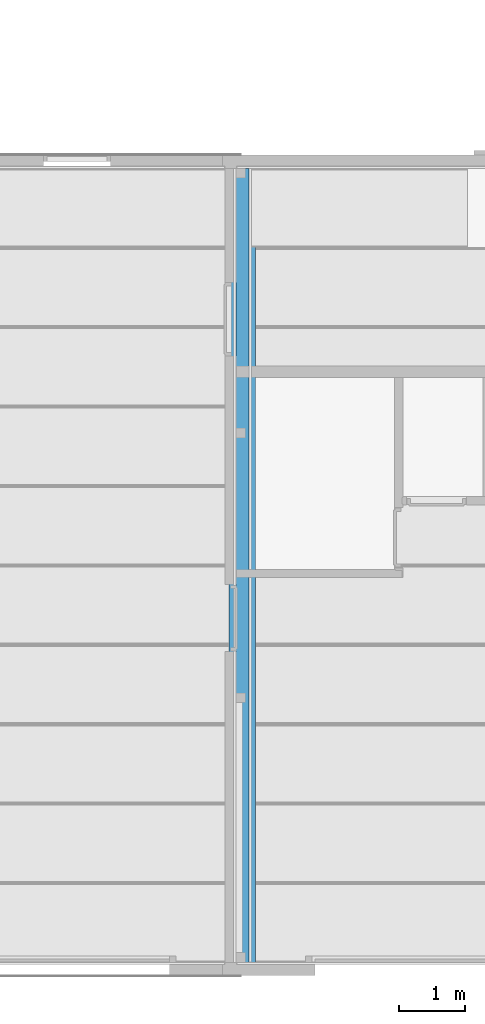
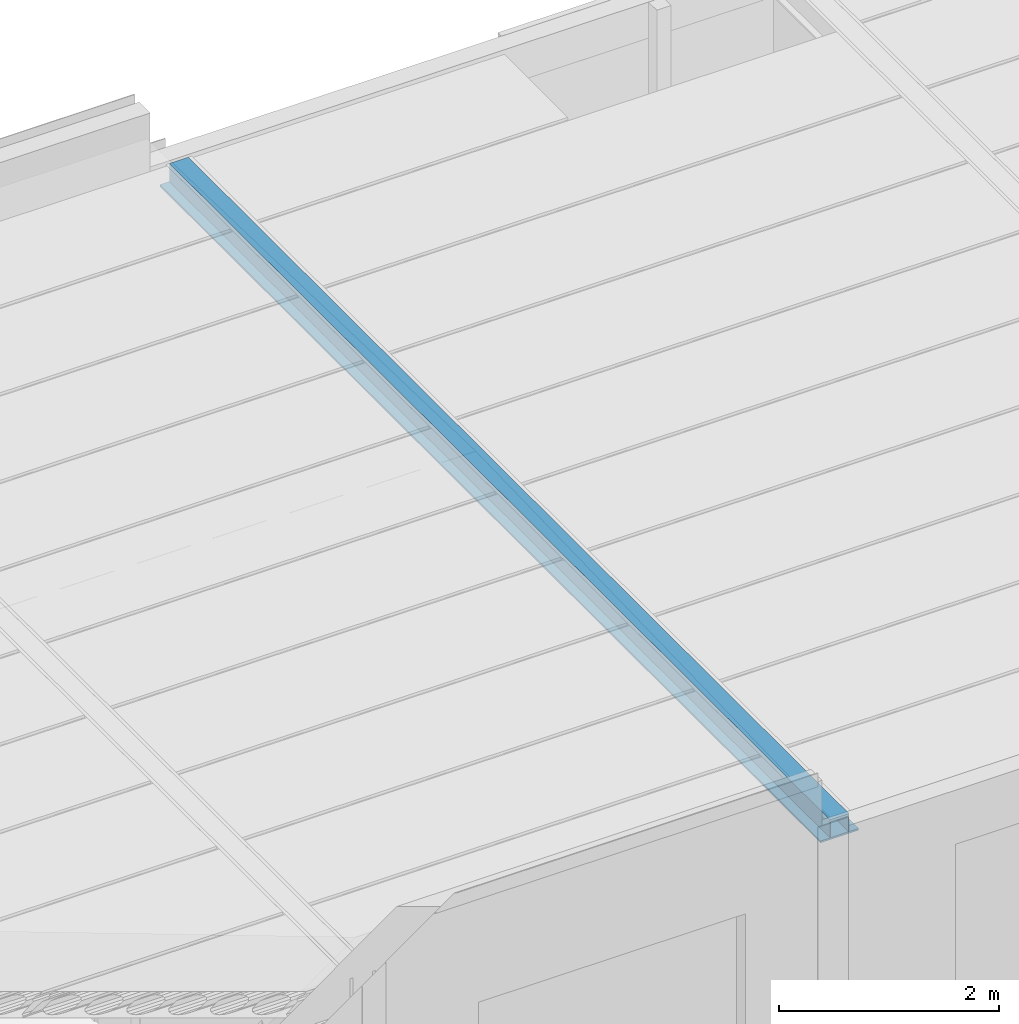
# One storey, part 9 of 45: 1 beam.
"""IFC2X3 building model written with IfcOpenShell, lengths in millimetres."""

import ifcopenshell
import ifcopenshell.guid

model = None  # the IFC model being written
_history = None  # IfcOwnerHistory: only IFC2X3 demands one
_inside = {}  # id of a spatial element -> (the spatial element, [elements in it])
_under = {}  # id of a project, library or spatial element -> (it, [spatial elements below it])
_declared = {}  # id of a project -> (the project, [libraries it declares])
_typed = {}  # id of a type object -> (the type object, [elements of that type])
_made_of = {}  # id of a material, layer set ... -> (it, [elements and type objects made of it])


def new_model(schema):
    """Start an empty IFC model of exactly this schema.

    Asked for "IFC4X3", IfcOpenShell would pick the latest addendum, in which some entities
    have other attributes; the version numbers below select the first issue.
    IFC2X3 requires an IfcOwnerHistory on every rooted entity: one is made here for all.
    """
    global model, _history
    if schema == "IFC4X3":
        model = ifcopenshell.file(schema_version=(4, 3, 0, 0))
    else:
        model = ifcopenshell.file(schema=schema)
    _inside.clear()
    _under.clear()
    _declared.clear()
    _typed.clear()
    _made_of.clear()
    _history = None
    if model.schema == "IFC2X3":
        org = make("IfcOrganization", Name="unknown")
        user = make(
            "IfcPersonAndOrganization",
            ThePerson=make("IfcPerson", FamilyName="unknown"),
            TheOrganization=org,
        )
        app = make(
            "IfcApplication",
            ApplicationDeveloper=org,
            Version="unknown",
            ApplicationFullName="unknown",
            ApplicationIdentifier="unknown",
        )
        _history = make(
            "IfcOwnerHistory",
            OwningUser=user,
            OwningApplication=app,
            ChangeAction="ADDED",
            CreationDate=0,
        )
    return model


def make(cls, **values):
    """One entity of the class cls with the attributes given. An attribute that is None is left unset."""
    return model.create_entity(
        cls, **{name: value for name, value in values.items() if value is not None}
    )


def entity(cls, *values):
    """Any entity or typed value of the class cls, its attributes in the order of the schema. None: left unset."""
    e = model.create_entity(cls)
    for i, value in enumerate(values):
        if value is not None:
            e[i] = value
    return e


def rooted(cls, **values):
    """An entity with a GlobalId (a new one), such as an element, a storey or a relation."""
    return make(cls, GlobalId=ifcopenshell.guid.new(), OwnerHistory=_history, **values)


def si_unit(unit_type, name, prefix=None):
    """IfcSIUnit, for example si_unit("LENGTHUNIT", "METRE", prefix="MILLI")."""
    return make("IfcSIUnit", UnitType=unit_type, Prefix=prefix, Name=name)


def converted_unit(unit_type, name, factor, base, dimensions=None, offset=None):
    """IfcConversionBasedUnit, such as the inch: factor (a typed value) times the base unit."""
    return make(
        "IfcConversionBasedUnit"
        if offset is None
        else "IfcConversionBasedUnitWithOffset",
        ConversionOffset=offset,
        Dimensions=None
        if dimensions is None
        else entity("IfcDimensionalExponents", *dimensions),
        UnitType=unit_type,
        Name=name,
        ConversionFactor=make(
            "IfcMeasureWithUnit", ValueComponent=factor, UnitComponent=base
        ),
    )


def assignment(units):
    """IfcUnitAssignment: the units of a project."""
    return None if units is None else make("IfcUnitAssignment", Units=units)


def point(xyz):
    """IfcCartesianPoint."""
    return None if xyz is None else make("IfcCartesianPoint", Coordinates=xyz)


def direction(xyz):
    """IfcDirection."""
    return None if xyz is None else make("IfcDirection", DirectionRatios=xyz)


def frame(location, z_axis=None, x_axis=None):
    """IfcAxis2Placement3D, a coordinate frame: its origin and axes. An axis left out is left unset."""
    return make(
        "IfcAxis2Placement3D",
        Location=point(location),
        Axis=direction(z_axis),
        RefDirection=direction(x_axis),
    )


def origin():
    """The frame at (0, 0, 0) with its axes left unset."""
    return frame((0.0, 0.0, 0.0))


def place(relative_to, where):
    """IfcLocalPlacement: puts the frame where relative to a parent placement (None: the world)."""
    return make(
        "IfcLocalPlacement", PlacementRelTo=relative_to, RelativePlacement=where
    )


def context(
    kind, dimensions, precision=None, world=None, true_north=None, identifier=None
):
    """IfcGeometricRepresentationContext, for example the 3D "Model" context."""
    return make(
        "IfcGeometricRepresentationContext",
        ContextIdentifier=identifier,
        ContextType=kind,
        CoordinateSpaceDimension=dimensions,
        Precision=precision,
        WorldCoordinateSystem=world,
        TrueNorth=true_north,
    )


def subcontext(parent, identifier, kind, view, scale=None):
    """IfcGeometricRepresentationSubContext, for example "Body" below "Model"."""
    return make(
        "IfcGeometricRepresentationSubContext",
        ContextIdentifier=identifier,
        ContextType=kind,
        ParentContext=parent,
        TargetScale=scale,
        TargetView=view,
    )


def project(units=None, contexts=None):
    """IfcProject with its units and contexts."""
    return rooted(
        "IfcProject",
        Name="project",
        RepresentationContexts=contexts,
        UnitsInContext=assignment(units),
    )


def spatial(cls, under=None, at=None, **own):
    """A site, building, storey or space (cls), placed at a placement, below another one or the project."""
    s = rooted(cls, ObjectPlacement=at, **own)
    if under is not None:
        _under.setdefault(under.id(), (under, []))[1].append(s)
    return s


def faces_of(points, faces, orient=None, outer=None):
    """IfcFace entities. A face is a list of loops; a loop is a list of indices into points, from 0.

    orient and outer hold one flag for each loop. By default every Orientation is true, the
    first loop of a face is its IfcFaceOuterBound and the others are IfcFaceBound.
    """
    made = []
    for i, loops in enumerate(faces):
        bounds = []
        for j, loop in enumerate(loops):
            is_outer = j == 0 if outer is None else outer[i][j]
            bounds.append(
                make(
                    "IfcFaceOuterBound" if is_outer else "IfcFaceBound",
                    Bound=make("IfcPolyLoop", Polygon=[points[k] for k in loop]),
                    Orientation=True if orient is None else orient[i][j],
                )
            )
        made.append(make("IfcFace", Bounds=bounds))
    return made


def faceted_brep(points, faces, orient=None, outer=None, voids=None):
    """IfcFacetedBrep: a solid bounded by flat faces; with voids (closed shells), ...WithVoids."""
    shared = [point(p) for p in points]
    hull = make("IfcClosedShell", CfsFaces=faces_of(shared, faces, orient, outer))
    if voids is None:
        return make("IfcFacetedBrep", Outer=hull)
    return make(
        "IfcFacetedBrepWithVoids",
        Outer=hull,
        Voids=[
            make(cls, CfsFaces=faces_of(shared, fs, o, b)) for cls, fs, o, b in voids
        ],
    )


def shape(context_of_items, identifier, shape_type, items):
    """IfcShapeRepresentation: the items that make up one representation, for example the "Body"."""
    return make(
        "IfcShapeRepresentation",
        ContextOfItems=context_of_items,
        RepresentationIdentifier=identifier,
        RepresentationType=shape_type,
        Items=items,
    )


def material(Name=None, Category=None):
    """IfcMaterial."""
    return make("IfcMaterial", Name=Name, Category=Category)


def made_of(thing, what):
    """Note that an element or type object is made of a material, layer set ...; save() writes the relation."""
    if what is not None:
        _made_of.setdefault(what.id(), (what, []))[1].append(thing)
    return thing


def element(
    cls,
    number,
    at=None,
    inside=None,
    cuts=None,
    type_object=None,
    material=None,
    context=None,
    identifier="Body",
    shape_type=None,
    held_by="IfcProductDefinitionShape",
    body=None,
    shapes=None,
    **own,
):
    """One element of the class cls, such as IfcWall. Its Tag is "e" and its number.

    at: its placement. inside: the storey or other place that contains it. cuts: it is an
    opening in that element (IfcRelVoidsElement). A single representation is given by context,
    identifier, shape_type and body (its items); several are given by shapes. held_by: the class
    of the entity that holds the representations. save() writes the other relations.
    """
    e = rooted(cls, Tag="e%d" % number, ObjectPlacement=at, **own)
    if body is not None:
        shapes = [shape(context, identifier, shape_type, body)]
    if shapes is not None:
        e.Representation = make(held_by, Representations=shapes)
    if inside is not None:
        _inside.setdefault(inside.id(), (inside, []))[1].append(e)
    if cuts is not None:
        rooted(
            "IfcRelVoidsElement", RelatingBuildingElement=cuts, RelatedOpeningElement=e
        )
    if type_object is not None:
        _typed.setdefault(type_object.id(), (type_object, []))[1].append(e)
    return made_of(e, material)


def aggregate(whole, parts):
    """IfcRelAggregates: a whole, such as a stair, and the parts it consists of."""
    return rooted("IfcRelAggregates", RelatingObject=whole, RelatedObjects=parts)


def save(model, path):
    """Write the relations noted so far, then the file.

    IfcRelAggregates (storeys below a building ...), IfcRelContainedInSpatialStructure (elements
    in a storey), IfcRelDefinesByType, IfcRelAssociatesMaterial and IfcRelDeclares: one each for
    every whole, place, type object, material and project.
    """
    for whole, parts in _under.values():
        aggregate(whole, parts)
    for where, things in _inside.values():
        rooted(
            "IfcRelContainedInSpatialStructure",
            RelatedElements=things,
            RelatingStructure=where,
        )
    for kind, things in _typed.values():
        rooted("IfcRelDefinesByType", RelatedObjects=things, RelatingType=kind)
    for what, things in _made_of.values():
        rooted("IfcRelAssociatesMaterial", RelatedObjects=things, RelatingMaterial=what)
    for by, libraries in _declared.values():
        rooted("IfcRelDeclares", RelatingContext=by, RelatedDefinitions=libraries)
    model.write(path)


model = new_model("IFC2X3")

# Units and contexts
model_context = context("Model", 3, precision=1e-05, world=origin())
plan_context = context("Plan", 3, precision=1e-05, world=origin())
body_context = subcontext(model_context, "Body", "Model", "MODEL_VIEW")
ifc_project = project(units=[si_unit("LENGTHUNIT", "METRE", prefix="MILLI"), converted_unit("PLANEANGLEUNIT", "DEGREE", entity("IfcPlaneAngleMeasure", 0.0174532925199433), si_unit("PLANEANGLEUNIT", "RADIAN"), dimensions=[0, 0, 0, 0, 0, 0, 0]), si_unit("AREAUNIT", "SQUARE_METRE"), si_unit("VOLUMEUNIT", "CUBIC_METRE")], contexts=[model_context, plan_context])

# Building, storey
building_placement = place(None, origin())
building = spatial("IfcBuilding", under=ifc_project, at=building_placement, Name="HEKF Administrasjonbygg", CompositionType="ELEMENT")
storey_placement = place(building_placement, frame((0.0, 0.0, 6500.0), z_axis=(0.0, 0.0, 1.0), x_axis=(1.0, 0.0, 0.0)))
storey = spatial("IfcBuildingStorey", under=building, at=storey_placement, Name="Plan 1", CompositionType="ELEMENT", Elevation=6500.0)

# Beam
ifc_material = material(Name="HSQ")
beam_placement = place(storey_placement, frame((0.0, 0.0, -6500.0), z_axis=(0.0, 0.0, 1.0), x_axis=(1.0, 0.0, 0.0)))
element("IfcBeam", 1, at=beam_placement, inside=storey, material=ifc_material, context=body_context, shape_type="Brep", body=[
    faceted_brep([(9800.0, -11999.99999999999, 9670.0), (9800.0, -11999.99999999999, 9650.0), (9800.000000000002, 1.456726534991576e-11, 9650.0), (9800.0, 1.456726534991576e-11, 9670.0), (10200.0, -11999.99999999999, 9670.0), (10200.0, -11999.99999999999, 9650.0), (9800.0, -11999.99999999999, 9650.0), (9800.0, -11999.99999999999, 9670.0), (9900.0, -11999.99999999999, 9670.0), (9900.0, -11999.99999999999, 9870.0), (10100.0, -11999.99999999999, 9870.0), (10100.0, -11999.99999999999, 9670.0), (9905.0, -11999.99999999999, 9670.0), (10095.0, -11999.99999999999, 9670.0), (10095.0, -11999.99999999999, 9845.0), (9905.0, -11999.99999999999, 9845.0), (10200.0, 1.453656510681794e-11, 9670.0), (10200.0, 1.453656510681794e-11, 9650.0), (10200.0, -11999.99999999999, 9650.0), (10200.0, -11999.99999999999, 9670.0), (9800.0, 1.456726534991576e-11, 9670.0), (9800.000000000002, 1.456726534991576e-11, 9650.0), (10200.0, 1.453656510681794e-11, 9650.0), (10200.0, 1.453656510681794e-11, 9670.0), (10100.0, 1.454579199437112e-11, 9670.0), (10100.0, 1.454579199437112e-11, 9870.0), (9900.0, 1.453354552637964e-11, 9870.0), (9900.0, 1.453354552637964e-11, 9670.0), (9905.0, 1.453385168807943e-11, 9670.0), (9905.0, 1.453385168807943e-11, 9845.0), (10095.0, 1.454548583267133e-11, 9845.0), (10095.0, 1.454548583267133e-11, 9670.0), (9800.0, -11999.99999999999, 9650.0), (10200.0, -11999.99999999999, 9650.0), (10200.0, 1.453656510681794e-11, 9650.0), (9800.000000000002, 1.456726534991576e-11, 9650.0), (10200.0, -11999.99999999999, 9670.0), (10100.0, -11999.99999999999, 9670.0), (10100.0, 1.454579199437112e-11, 9670.0), (10200.0, 1.453656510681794e-11, 9670.0), (10100.0, -11999.99999999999, 9670.0), (10100.0, -11999.99999999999, 9870.0), (10100.0, 1.454579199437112e-11, 9870.0), (10100.0, 1.454579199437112e-11, 9670.0), (10100.0, -11999.99999999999, 9870.0), (9900.0, -11999.99999999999, 9870.0), (9900.0, 1.453354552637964e-11, 9870.0), (10100.0, 1.454579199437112e-11, 9870.0), (9900.0, -11999.99999999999, 9870.0), (9900.0, -11999.99999999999, 9670.0), (9900.0, 1.453354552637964e-11, 9670.0), (9900.0, 1.453354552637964e-11, 9870.0), (9900.0, -11999.99999999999, 9670.0), (9800.0, -11999.99999999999, 9670.0), (9800.0, 1.456726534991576e-11, 9670.0), (9900.0, 1.453354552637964e-11, 9670.0), (9905.0, -11999.99999999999, 9670.0), (9905.0, -11999.99999999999, 9845.0), (9905.0, 1.453385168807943e-11, 9845.0), (9905.0, 1.453385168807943e-11, 9670.0), (9905.0, -11999.99999999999, 9845.0), (10095.0, -11999.99999999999, 9845.0), (10095.0, 1.454548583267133e-11, 9845.0), (9905.0, 1.453385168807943e-11, 9845.0), (10095.0, -11999.99999999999, 9845.0), (10095.0, -11999.99999999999, 9670.0), (10095.0, 1.454548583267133e-11, 9670.0), (10095.0, 1.454548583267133e-11, 9845.0), (10095.0, -11999.99999999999, 9670.0), (9905.0, -11999.99999999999, 9670.0), (9905.0, 1.453385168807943e-11, 9670.0), (10095.0, 1.454548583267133e-11, 9670.0)], [[[0, 1, 2, 3]], [[4, 5, 6, 7, 8, 9, 10, 11], [12, 13, 14, 15]], [[16, 17, 18, 19]], [[20, 21, 22, 23, 24, 25, 26, 27], [28, 29, 30, 31]], [[32, 33, 34, 35]], [[36, 37, 38, 39]], [[40, 41, 42, 43]], [[44, 45, 46, 47]], [[48, 49, 50, 51]], [[52, 53, 54, 55]], [[56, 57, 58, 59]], [[60, 61, 62, 63]], [[64, 65, 66, 67]], [[68, 69, 70, 71]]], orient=[[False], [False, False], [False], [False, False], [False], [False], [False], [False], [False], [False], [False], [False], [False], [False]]),
])

save(model, "model.ifc")
